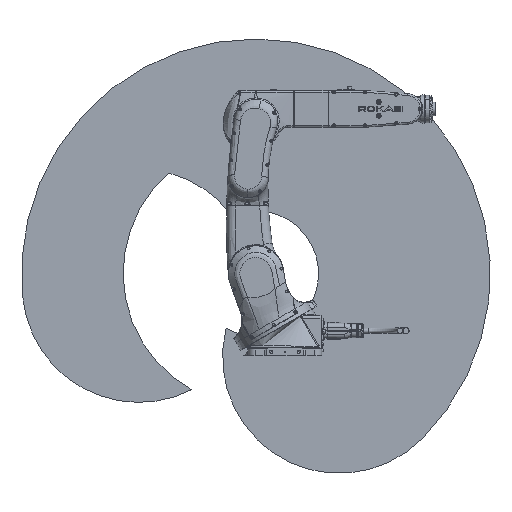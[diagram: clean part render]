
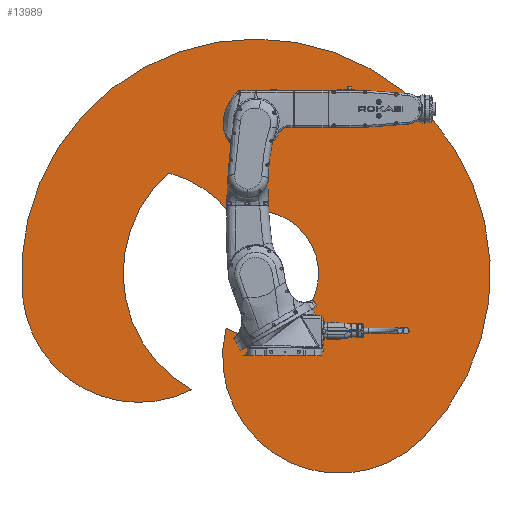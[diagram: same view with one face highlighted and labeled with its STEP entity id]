
A CAD part, front view. The second image highlights one B-rep face of the part: STEP entity #13989.
In plain terms, the highlighted planar face has unit normal (0, 0, -1) by its records, which use the part's own axes.
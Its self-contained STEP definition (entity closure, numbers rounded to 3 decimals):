
#13989=ADVANCED_FACE('',(#17613),#14984,.T.);
#14984=PLANE('',#53154);
#17613=FACE_OUTER_BOUND('',#21204,.T.);
#21204=EDGE_LOOP('',(#34995,#34996,#34997,#34998,#34999,#35000));
#34995=ORIENTED_EDGE('',*,*,#46258,.T.);
#34996=ORIENTED_EDGE('',*,*,#46259,.T.);
#34997=ORIENTED_EDGE('',*,*,#46260,.T.);
#34998=ORIENTED_EDGE('',*,*,#46261,.T.);
#34999=ORIENTED_EDGE('',*,*,#46262,.T.);
#35000=ORIENTED_EDGE('',*,*,#46263,.T.);
#39357=VERTEX_POINT('',#139113);
#39358=VERTEX_POINT('',#139114);
#39359=VERTEX_POINT('',#139116);
#39360=VERTEX_POINT('',#139118);
#39361=VERTEX_POINT('',#139120);
#39362=VERTEX_POINT('',#139122);
#46258=EDGE_CURVE('',#39357,#39358,#48578,.T.);
#46259=EDGE_CURVE('',#39358,#39359,#48579,.T.);
#46260=EDGE_CURVE('',#39359,#39360,#48580,.T.);
#46261=EDGE_CURVE('',#39360,#39361,#48581,.T.);
#46262=EDGE_CURVE('',#39361,#39362,#48582,.T.);
#46263=EDGE_CURVE('',#39362,#39357,#48583,.T.);
#48578=CIRCLE('',#53148,180.697);
#48579=CIRCLE('',#53149,336.823);
#48580=CIRCLE('',#53150,383.538);
#48581=CIRCLE('',#53151,336.823);
#48582=CIRCLE('',#53152,676.823);
#48583=CIRCLE('',#53153,336.823);
#53148=AXIS2_PLACEMENT_3D('',#139112,#64734,#64735);
#53149=AXIS2_PLACEMENT_3D('',#139115,#64736,#64737);
#53150=AXIS2_PLACEMENT_3D('',#139117,#64738,#64739);
#53151=AXIS2_PLACEMENT_3D('',#139119,#64740,#64741);
#53152=AXIS2_PLACEMENT_3D('',#139121,#64742,#64743);
#53153=AXIS2_PLACEMENT_3D('',#139123,#64744,#64745);
#53154=AXIS2_PLACEMENT_3D('',#139124,#64746,#64747);
#64734=DIRECTION('',(0.,0.,1.));
#64735=DIRECTION('',(1.,0.,0.));
#64736=DIRECTION('',(0.,0.,1.));
#64737=DIRECTION('',(1.,0.,0.));
#64738=DIRECTION('',(0.,0.,1.));
#64739=DIRECTION('',(1.,0.,0.));
#64740=DIRECTION('',(0.,0.,-1.));
#64741=DIRECTION('',(1.,0.,0.));
#64742=DIRECTION('',(0.,0.,-1.));
#64743=DIRECTION('',(1.,0.,0.));
#64744=DIRECTION('',(0.,0.,-1.));
#64745=DIRECTION('',(1.,0.,0.));
#64746=DIRECTION('',(0.,0.,-1.));
#64747=DIRECTION('',(1.,0.,0.));
#139112=CARTESIAN_POINT('',(3021.025,3052.008,0.));
#139113=CARTESIAN_POINT('',(2934.674,2893.279,0.));
#139114=CARTESIAN_POINT('',(2952.012,3219.007,0.));
#139115=CARTESIAN_POINT('',(2682.888,3016.468,0.));
#139116=CARTESIAN_POINT('',(2769.862,3341.868,0.));
#139117=CARTESIAN_POINT('',(3021.025,3052.008,0.));
#139118=CARTESIAN_POINT('',(2835.616,2716.262,0.));
#139119=CARTESIAN_POINT('',(2682.888,3016.468,0.));
#139120=CARTESIAN_POINT('',(2347.91,2981.261,0.));
#139121=CARTESIAN_POINT('',(3021.025,3052.008,0.));
#139122=CARTESIAN_POINT('',(3499.612,2573.423,0.));
#139123=CARTESIAN_POINT('',(3261.441,2811.592,0.));
#139124=CARTESIAN_POINT('',(3141.233,2931.8,0.));
